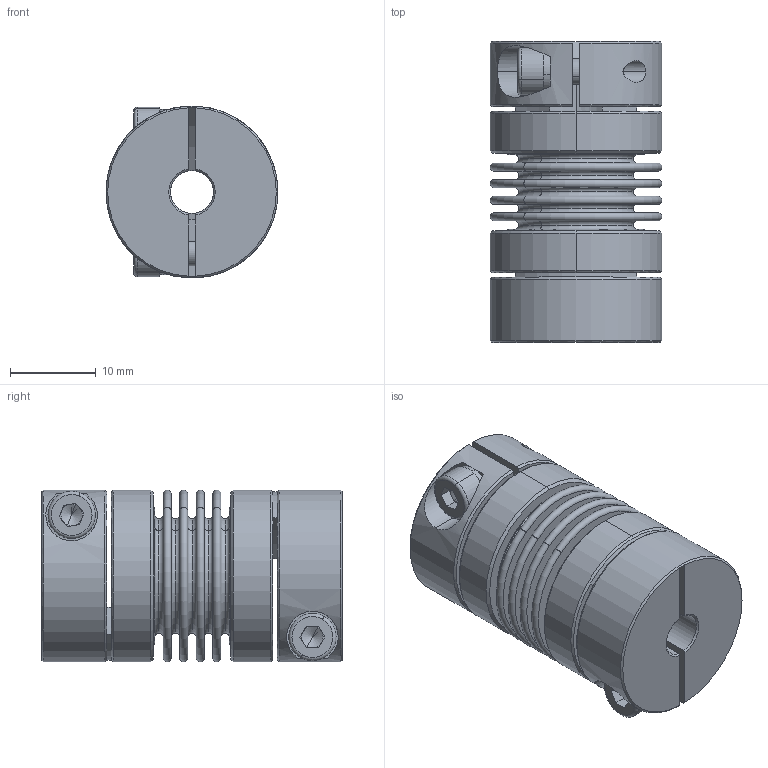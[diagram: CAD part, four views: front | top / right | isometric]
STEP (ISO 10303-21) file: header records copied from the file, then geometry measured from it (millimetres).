
FILE_DESCRIPTION (( 'STEP AP203' ), '1' );
FILE_NAME ('LB-B-D20L34-5-9.525.STEP', '2021-11-04T01:39:47', ( '' ), ( '' ), 'SwSTEP 2.0', 'SolidWorks 2018', '' );
FILE_SCHEMA (( 'CONFIG_CONTROL_DESIGN' ));
Length unit declared in the file: millimetre
Products named in the file (2): LB-B-D20L34-5-9.525; 零件4^LB-B-D20L34 波纹管联轴器-组装体
Assembly tree (1 placements, depth 2):
  LB-B-D20L34-5-9.525
    零件4^LB-B-D20L34 波纹管联轴器-组装体
Bounding box: 20 x 35 x 20 mm (x, y, z)
Volume: 5779 mm3; surface area: 9491.3 mm2
Topology: 1 solids, 1 shells, 246 faces, 572 edges, 354 vertices
Faces by surface type: plane 83, torus 68, cylinder 61, cone 34
Entity records: 7500 total; most frequent: CARTESIAN_POINT 1478, DIRECTION 1376, ORIENTED_EDGE 1136, AXIS2_PLACEMENT_3D 604, EDGE_CURVE 568, VERTEX_POINT 354, CIRCLE 354, EDGE_LOOP 288
